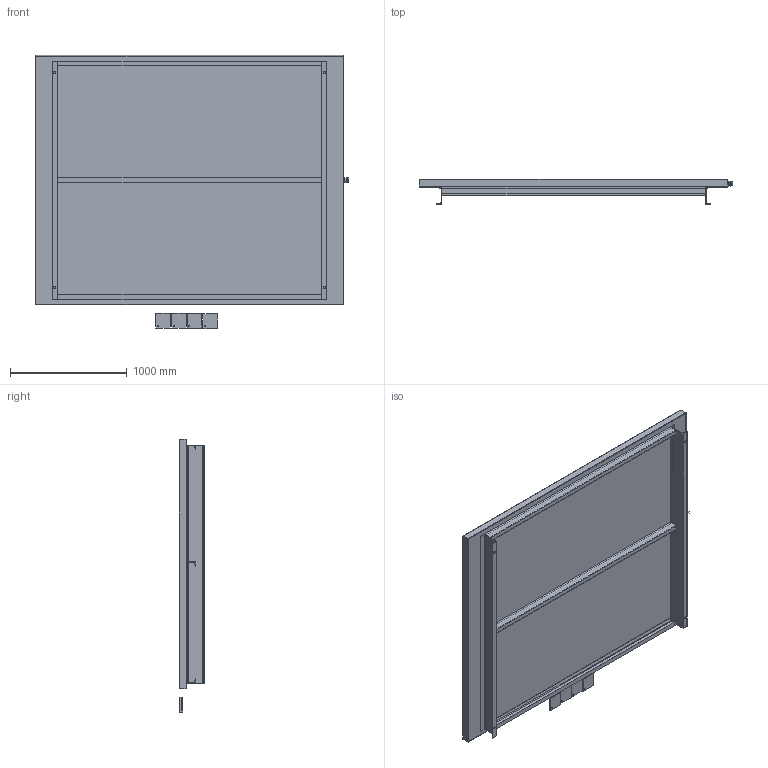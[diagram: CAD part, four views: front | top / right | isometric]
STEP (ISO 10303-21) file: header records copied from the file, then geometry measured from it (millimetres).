
FILE_DESCRIPTION (( 'STEP AP214' ), '1' );
FILE_NAME ('TDP-600-700.STEP', '2026-04-22T13:23:48', ( '' ), ( '' ), 'SwSTEP 2.0', 'SolidWorks 2026', '' );
FILE_SCHEMA (( 'AUTOMOTIVE_DESIGN' ));
Length unit declared in the file: inch
Products named in the file (7): #12 SAE PLUG; TDP-PAD400-500-600-700; TDP-600-700; C6-TDP-600-700_Default<As Welded>; #12 SAE DRAIN; C3-TDP-600-700_Default<As Welded>
Assembly tree (12 placements, depth 2):
  TDP-600-700
    TDP-600-700
    C6-TDP-600-700_Default<As Welded>  x2
    C3-TDP-600-700_Default<As Welded>  x3
    #12 SAE DRAIN
    #12 SAE PLUG
    TDP-PAD400-500-600-700  x4
Bounding box: 2682.88 x 215.9 x 2337.43 mm (x, y, z)
Volume: 35230268.9 mm3; surface area: 16380989.3 mm2
Topology: 12 solids, 12 shells, 177 faces, 414 edges, 264 vertices
Faces by surface type: plane 109, cylinder 54, bspline 8, cone 6
Entity records: 3760 total; most frequent: CARTESIAN_POINT 1106, DIRECTION 500, ORIENTED_EDGE 480, EDGE_CURVE 240, VECTOR 168, LINE 168, AXIS2_PLACEMENT_3D 166, VERTEX_POINT 148
